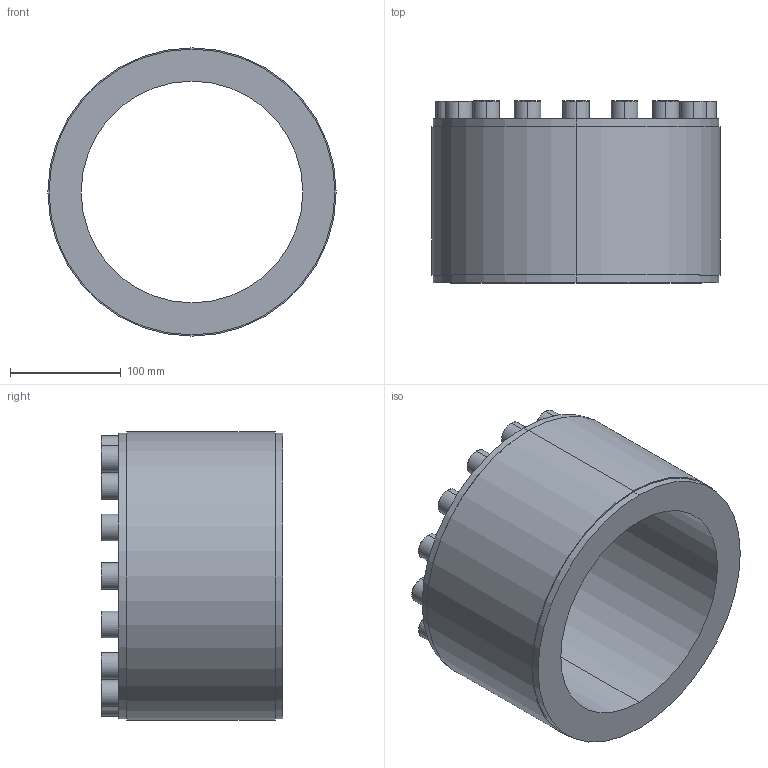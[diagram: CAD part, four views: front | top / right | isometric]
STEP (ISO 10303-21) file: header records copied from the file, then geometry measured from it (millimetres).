
FILE_DESCRIPTION (( 'STEP AP203' ), '1' );
FILE_NAME ('PL-D1 200-260.STEP', '2021-10-23T00:23:05', ( '' ), ( '' ), 'SwSTEP 2.0', 'SolidWorks 2018', '' );
FILE_SCHEMA (( 'CONFIG_CONTROL_DESIGN' ));
Length unit declared in the file: millimetre
Products named in the file (1): PL-D1 200-260
Bounding box: 260 x 164 x 260 mm (x, y, z)
Volume: 3290823.7 mm3; surface area: 282394.6 mm2
Topology: 1 solids, 1 shells, 204 faces, 472 edges, 304 vertices
Faces by surface type: plane 132, cylinder 40, torus 32
Entity records: 5845 total; most frequent: DIRECTION 1026, CARTESIAN_POINT 981, ORIENTED_EDGE 944, EDGE_CURVE 472, AXIS2_PLACEMENT_3D 349, LINE 328, VECTOR 328, VERTEX_POINT 304
